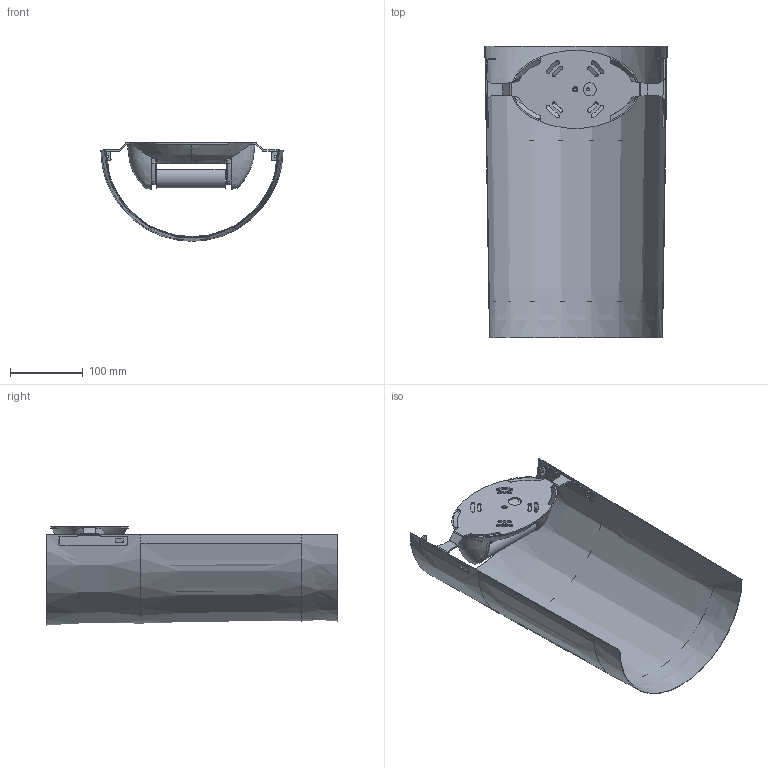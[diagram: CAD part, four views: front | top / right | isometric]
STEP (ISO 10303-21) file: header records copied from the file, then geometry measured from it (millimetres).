
FILE_DESCRIPTION (( 'STEP AP214' ), '1' );
FILE_NAME ('182_PICCOLA_W_PL_3D.STEP', '2021-05-06T07:00:17', ( '' ), ( '' ), 'SwSTEP 2.0', 'SolidWorks 2021', '' );
FILE_SCHEMA (( 'AUTOMOTIVE_DESIGN' ));
Length unit declared in the file: millimetre
Products named in the file (1): 182_PICCOLA_W_PL_3D
Bounding box: 250 x 400.16 x 135.29 mm (x, y, z)
Volume: 146168.7 mm3; surface area: 404012.5 mm2
Topology: 3 solids, 4 shells, 339 faces, 926 edges, 588 vertices
Faces by surface type: cylinder 142, plane 120, bspline 57, torus 14, cone 6
Entity records: 65861 total; most frequent: CARTESIAN_POINT 53931, ORIENTED_EDGE 1848, DIRECTION 1492, EDGE_CURVE 924, VERTEX_POINT 588, AXIS2_PLACEMENT_3D 549, LINE 394, VECTOR 394
